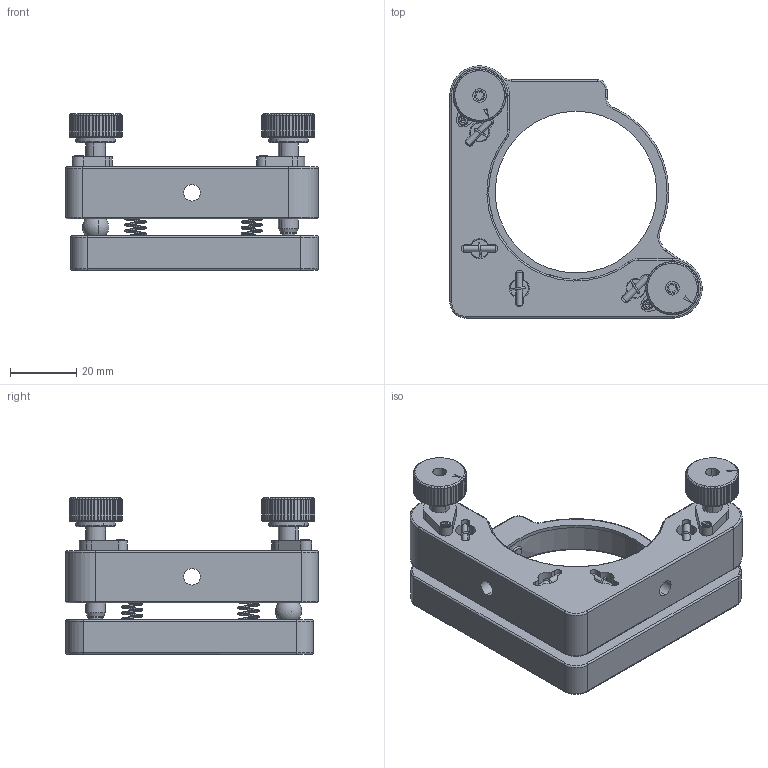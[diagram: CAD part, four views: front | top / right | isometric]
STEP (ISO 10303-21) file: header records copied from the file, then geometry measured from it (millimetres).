
FILE_DESCRIPTION (( 'STEP AP203' ), '1' );
FILE_NAME ('M-TMSO-2L-HOC.STEP', '2020-08-12T08:03:17', ( '匠星' ), ( '' ), 'SwSTEP 2.0', 'SolidWorks 2019', '' );
FILE_SCHEMA (( 'CONFIG_CONTROL_DESIGN' ));
Length unit declared in the file: millimetre
Products named in the file (1): M-TMSO-2L-HOC
Bounding box: 76.2 x 76.2 x 47.3 mm (x, y, z)
Surface area: 25551.3 mm2 (no closed solid volume)
Topology: 0 solids, 22 shells, 952 faces, 2467 edges, 1569 vertices
Faces by surface type: cylinder 420, plane 376, torus 68, cone 54, sphere 22, bspline 12
Entity records: 38649 total; most frequent: CARTESIAN_POINT 16199, ORIENTED_EDGE 4848, DIRECTION 4566, EDGE_CURVE 2430, AXIS2_PLACEMENT_3D 1826, VERTEX_POINT 1562, EDGE_LOOP 1020, FACE_OUTER_BOUND 952
